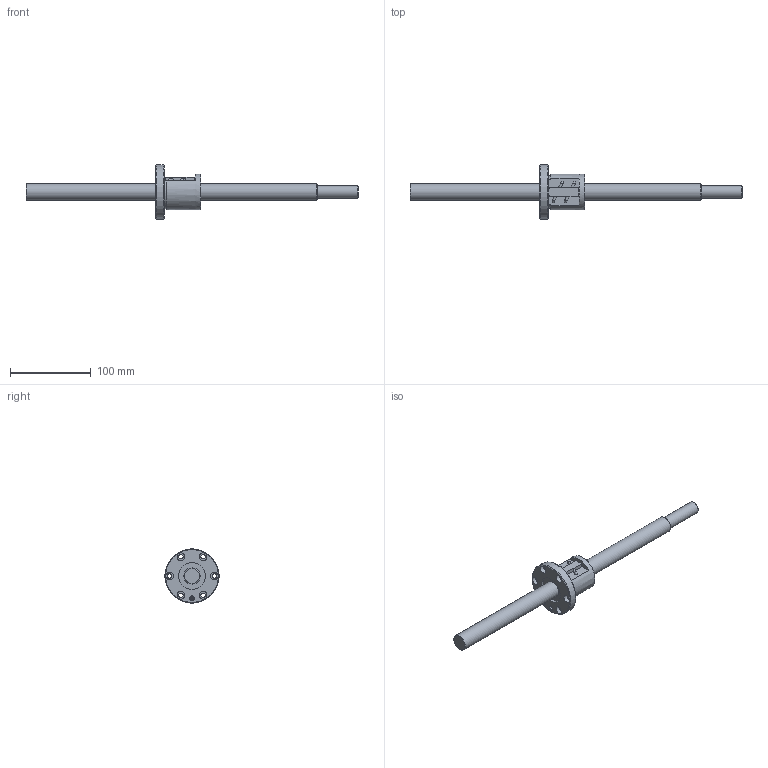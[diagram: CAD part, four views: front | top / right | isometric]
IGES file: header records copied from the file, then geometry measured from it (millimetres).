
Start section: Data from Parasolid IGES Translator 26.0.171, Copyright(c) 2006 Siemens PLM Software. All Rights Reserved.
Global section: file name: BNF2005-5RRG1+410LC5A(00).igs; native system: By Siemens PLM Incorporated; preprocessor: XPlus GENERIC/IGES 26.0.171; author: Noname; organization: Noname; date: 20240715.074128; units: millimetre
Bounding box: 410 x 67 x 67 mm (x, y, z)
Surface area: 46649.8 mm2 (no closed solid volume)
Topology: 0 solids, 0 shells, 71 faces, 356 edges, 319 vertices
Faces by surface type: revolution 47, extrusion 24
